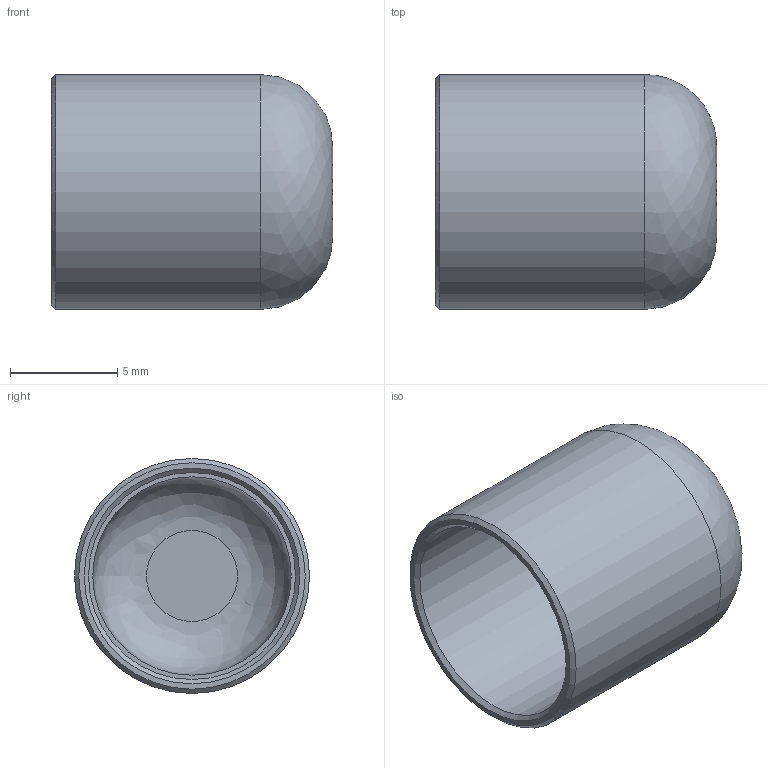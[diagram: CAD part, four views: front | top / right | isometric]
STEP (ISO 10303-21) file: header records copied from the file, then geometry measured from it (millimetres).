
FILE_DESCRIPTION((''),'2;1');
FILE_NAME('G:\SANHA-Ternat\Technik\Management\Bouwmaten + markeringen\z-maattekeningen 3D\29000s\2930138_3d.stp','2017-08-04T13:02:59',('vdvijverd'),(''),'Autodesk Inventor 2009','Autodesk Inventor 2009','');
FILE_SCHEMA(('AUTOMOTIVE_DESIGN { 1 0 10303 214 1 1 1 1 }'));
Length unit declared in the file: millimetre
Products named in the file (1): 2930138_3d
Bounding box: 13.1 x 10.95 x 10.95 mm (x, y, z)
Volume: 307.2 mm3; surface area: 915 mm2
Topology: 1 solids, 1 shells, 11 faces, 17 edges, 10 vertices
Faces by surface type: plane 4, cylinder 3, cone 2, bspline 2
Full cylindrical faces by diameter (mm): 9.245 x1, 9.645 x1, 10.945 x1
Entity records: 320 total; most frequent: CARTESIAN_POINT 120, DIRECTION 40, AXIS2_PLACEMENT_3D 20, ORIENTED_EDGE 20, EDGE_LOOP 20, FACE_OUTER_BOUND 11, ADVANCED_FACE 11, VERTEX_POINT 10
